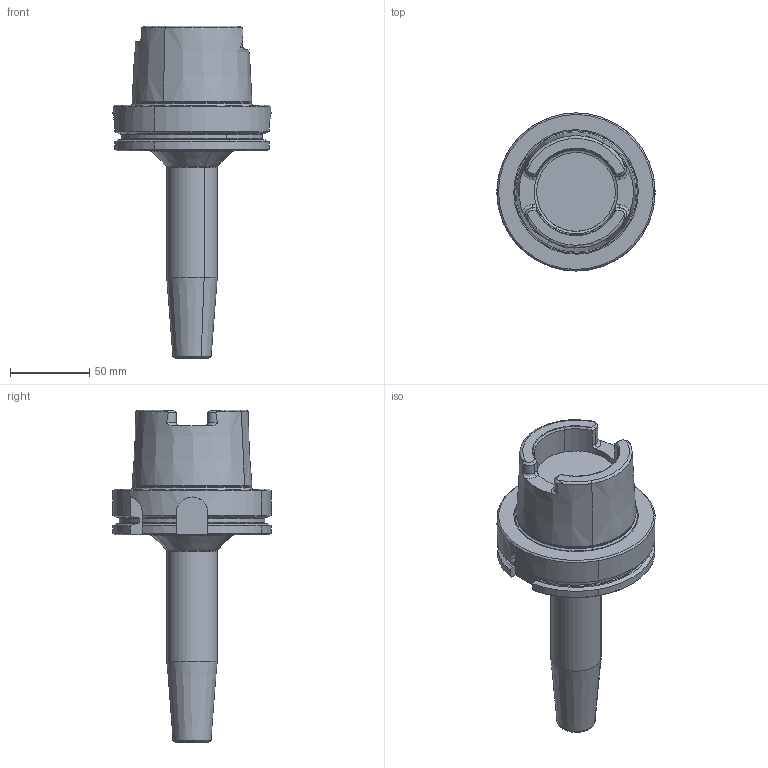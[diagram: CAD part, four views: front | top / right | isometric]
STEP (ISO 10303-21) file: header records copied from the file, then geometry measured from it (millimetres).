
FILE_DESCRIPTION(('CATIA V5 STEP','CAx-IF Rec.Pracs.--- Model Styling and Organization---1.2---2011-12-15'),'2;1');
FILE_NAME('\\nas01\drv1\utils\eitdev\rte\eit\transmagicconvert\db\out\4504231 L.stp','2014-04-03T04:55:03+00:00',('none'),('none'),'CATIA Version 5 Release 21 SP 5 (IN-10)','CATIA V5 STEP AP214','none');
FILE_SCHEMA(('AUTOMOTIVE_DESIGN { 1 0 10303 214 1 1 1 1 }'));
Length unit declared in the file: millimetre
Products named in the file (1): 60967248_0 Holder-Tool HSK A 100 SRKIN 10X160
Bounding box: 99.99 x 100 x 210 mm (x, y, z)
Volume: 451081.2 mm3; surface area: 66906.6 mm2
Topology: 1 solids, 1 shells, 153 faces, 382 edges, 234 vertices
Faces by surface type: cylinder 39, cone 39, torus 38, plane 37
Entity records: 4501 total; most frequent: CARTESIAN_POINT 1272, ORIENTED_EDGE 764, DIRECTION 487, EDGE_CURVE 382, AXIS2_PLACEMENT_3D 271, VERTEX_POINT 234, CIRCLE 181, EDGE_LOOP 156
